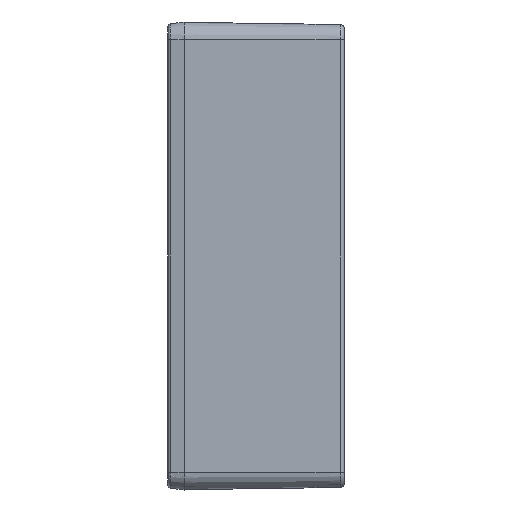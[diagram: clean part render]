
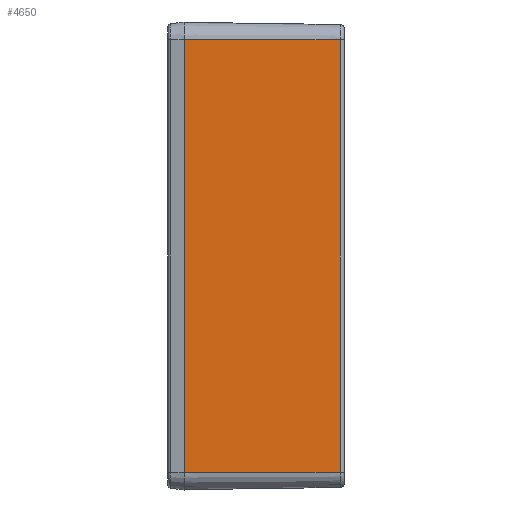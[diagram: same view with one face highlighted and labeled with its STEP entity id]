
A CAD part, left-side view. The second image highlights one B-rep face of the part: STEP entity #4650.
In plain terms, the highlighted planar face has unit normal (-1, -0.014, 0).
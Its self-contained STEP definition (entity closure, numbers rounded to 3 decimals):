
#11 = EDGE_CURVE ( 'NONE', #14907, #9466, #12699, .T. ) ;
#623 = ORIENTED_EDGE ( 'NONE', *, *, #6601, .F. ) ;
#911 = PLANE ( 'NONE',  #10893 ) ;
#2062 = VERTEX_POINT ( 'NONE', #9681 ) ;
#3419 = VECTOR ( 'NONE', #11532, 1000. ) ;
#3437 = DIRECTION ( 'NONE',  ( -1., -0.014, 0. ) ) ;
#3578 = LINE ( 'NONE', #13011, #14508 ) ;
#3977 = CARTESIAN_POINT ( 'NONE',  ( -110.57, -48.667, 67.45 ) ) ;
#4339 = EDGE_LOOP ( 'NONE', ( #623, #12939, #9337, #15042 ) ) ;
#4650 = ADVANCED_FACE ( 'NONE', ( #13801 ), #911, .T. ) ;
#4857 = LINE ( 'NONE', #14574, #6250 ) ;
#5141 = DIRECTION ( 'NONE',  ( 0., 0., 1. ) ) ;
#5298 = VERTEX_POINT ( 'NONE', #12692 ) ;
#5784 = CARTESIAN_POINT ( 'NONE',  ( -111.25, 0., 67.45 ) ) ;
#6250 = VECTOR ( 'NONE', #7338, 1000. ) ;
#6601 = EDGE_CURVE ( 'NONE', #2062, #5298, #4857, .T. ) ;
#7338 = DIRECTION ( 'NONE',  ( -0.014, 1., 0. ) ) ;
#7470 = CARTESIAN_POINT ( 'NONE',  ( -110.57, -48.667, 67.45 ) ) ;
#8178 = DIRECTION ( 'NONE',  ( 0.014, -1., 0. ) ) ;
#9337 = ORIENTED_EDGE ( 'NONE', *, *, #11, .T. ) ;
#9466 = VERTEX_POINT ( 'NONE', #9840 ) ;
#9681 = CARTESIAN_POINT ( 'NONE',  ( -110.57, -48.667, -67.45 ) ) ;
#9840 = CARTESIAN_POINT ( 'NONE',  ( -111.25, 0., 67.45 ) ) ;
#10297 = EDGE_CURVE ( 'NONE', #2062, #14907, #12083, .T. ) ;
#10893 = AXIS2_PLACEMENT_3D ( 'NONE', #5784, #3437, #8178 ) ;
#11532 = DIRECTION ( 'NONE',  ( -0.014, 1., 0. ) ) ;
#12083 = LINE ( 'NONE', #7470, #13192 ) ;
#12692 = CARTESIAN_POINT ( 'NONE',  ( -111.25, 0., -67.45 ) ) ;
#12699 = LINE ( 'NONE', #15161, #3419 ) ;
#12886 = EDGE_CURVE ( 'NONE', #5298, #9466, #3578, .T. ) ;
#12939 = ORIENTED_EDGE ( 'NONE', *, *, #10297, .T. ) ;
#13011 = CARTESIAN_POINT ( 'NONE',  ( -111.25, 0., 67.45 ) ) ;
#13192 = VECTOR ( 'NONE', #5141, 1000. ) ;
#13801 = FACE_OUTER_BOUND ( 'NONE', #4339, .T. ) ;
#14508 = VECTOR ( 'NONE', #15247, 1000. ) ;
#14574 = CARTESIAN_POINT ( 'NONE',  ( -111.25, 0., -67.45 ) ) ;
#14907 = VERTEX_POINT ( 'NONE', #3977 ) ;
#15042 = ORIENTED_EDGE ( 'NONE', *, *, #12886, .F. ) ;
#15161 = CARTESIAN_POINT ( 'NONE',  ( -111.25, 0., 67.45 ) ) ;
#15247 = DIRECTION ( 'NONE',  ( 0., 0., 1. ) ) ;
